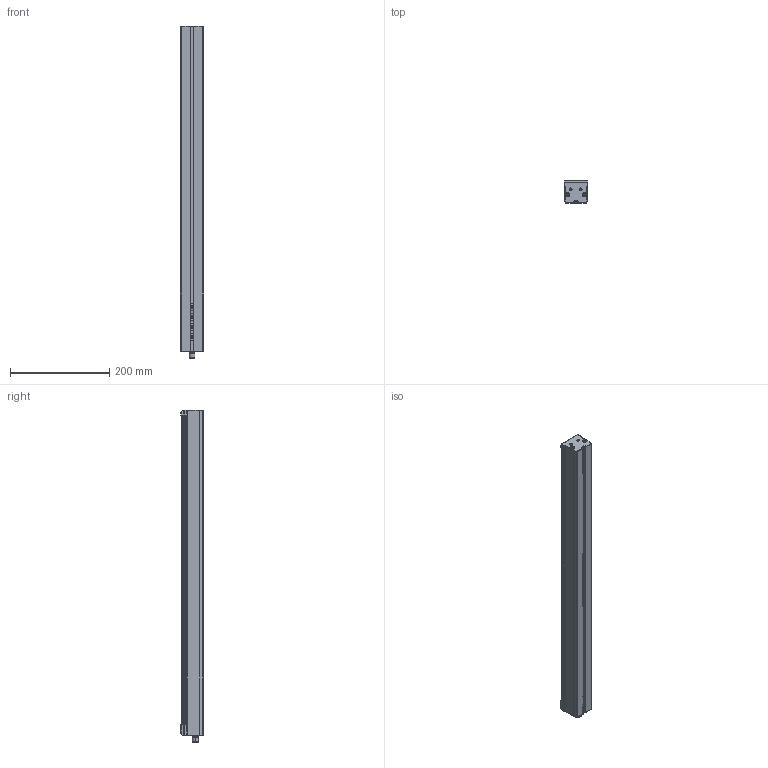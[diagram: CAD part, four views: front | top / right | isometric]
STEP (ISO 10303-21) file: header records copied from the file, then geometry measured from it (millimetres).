
FILE_DESCRIPTION (( 'STEP AP214' ), '1' );
FILE_NAME ('EBAR-EC-625-xxx-xx_CLIENT.STEP', '2026-06-04T10:49:01', ( '' ), ( '' ), 'SwSTEP 2.0', 'SolidWorks 2025', '' );
FILE_SCHEMA (( 'AUTOMOTIVE_DESIGN' ));
Length unit declared in the file: millimetre
Products named in the file (3): 1-X2014-01-3-A; EBAR-EC-625-xxx-xx_CLIENT; EBAR-EC-xxx-xxx-xx_CLIENT_625
Assembly tree (5 placements, depth 2):
  EBAR-EC-625-xxx-xx_CLIENT
    EBAR-EC-xxx-xxx-xx_CLIENT_625
    1-X2014-01-3-A  x4
Bounding box: 47.63 x 45 x 670.06 mm (x, y, z)
Volume: 1164461.3 mm3; surface area: 143260.2 mm2
Topology: 5 solids, 5 shells, 785 faces, 2005 edges, 1288 vertices
Faces by surface type: plane 341, cylinder 227, bspline 131, torus 62, cone 20, sphere 4
Entity records: 26495 total; most frequent: CARTESIAN_POINT 9555, ORIENTED_EDGE 3600, DIRECTION 3087, EDGE_CURVE 1800, VERTEX_POINT 1163, AXIS2_PLACEMENT_3D 1067, VECTOR 953, LINE 953
